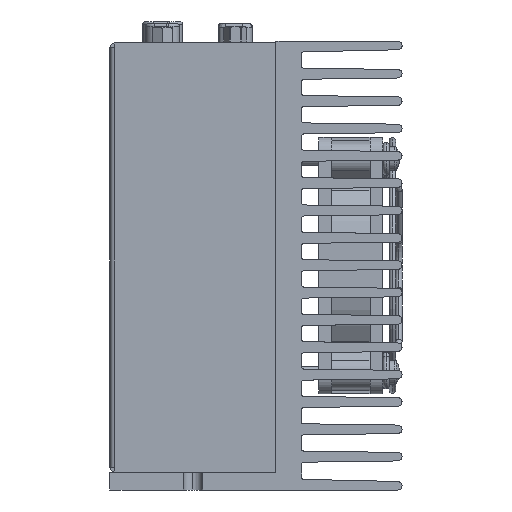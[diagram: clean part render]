
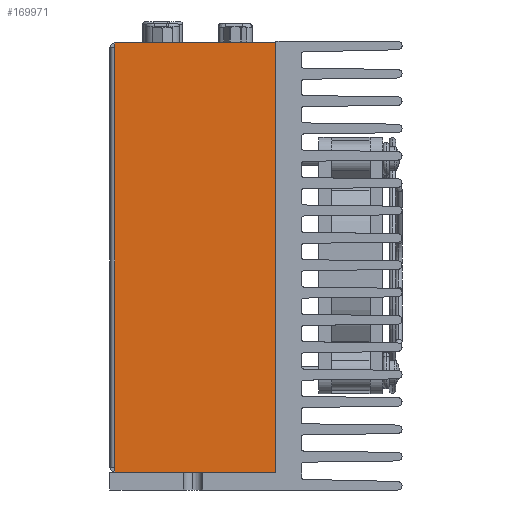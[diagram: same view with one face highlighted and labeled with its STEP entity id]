
A CAD part, left-side view. The second image highlights one B-rep face of the part: STEP entity #169971.
In plain terms, the highlighted planar face has unit normal (-1, 0, 0).
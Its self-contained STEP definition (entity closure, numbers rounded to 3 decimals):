
#8135 = LINE ( 'NONE', #13530, #123324 ) ;
#11818 = ORIENTED_EDGE ( 'NONE', *, *, #170365, .F. ) ;
#12488 = ORIENTED_EDGE ( 'NONE', *, *, #30053, .T. ) ;
#13530 = CARTESIAN_POINT ( 'NONE',  ( -132.35, 41.75, 4.2 ) ) ;
#14183 = EDGE_LOOP ( 'NONE', ( #33643, #18752, #12488, #91021, #152354, #11818 ) ) ;
#17228 = VERTEX_POINT ( 'NONE', #69547 ) ;
#18752 = ORIENTED_EDGE ( 'NONE', *, *, #99204, .T. ) ;
#18993 = VECTOR ( 'NONE', #145431, 1000. ) ;
#25196 = CARTESIAN_POINT ( 'NONE',  ( -132.35, 4., 104.6 ) ) ;
#26542 = CARTESIAN_POINT ( 'NONE',  ( -132.35, 4., 4.2 ) ) ;
#26770 = FACE_OUTER_BOUND ( 'NONE', #14183, .T. ) ;
#30053 = EDGE_CURVE ( 'NONE', #143443, #17228, #138889, .T. ) ;
#31336 = LINE ( 'NONE', #31872, #75993 ) ;
#31872 = CARTESIAN_POINT ( 'NONE',  ( -132.35, 4., 4.2 ) ) ;
#32694 = VERTEX_POINT ( 'NONE', #146691 ) ;
#33643 = ORIENTED_EDGE ( 'NONE', *, *, #98914, .F. ) ;
#36437 = CARTESIAN_POINT ( 'NONE',  ( -132.35, 41.75, 103.49 ) ) ;
#40396 = EDGE_CURVE ( 'NONE', #116385, #32694, #65666, .T. ) ;
#46595 = CARTESIAN_POINT ( 'NONE',  ( -132.35, 41.85, 4.2 ) ) ;
#61779 = DIRECTION ( 'NONE',  ( 0., 1., 0. ) ) ;
#65666 = LINE ( 'NONE', #111239, #70345 ) ;
#69547 = CARTESIAN_POINT ( 'NONE',  ( -132.35, 4., 104.6 ) ) ;
#70345 = VECTOR ( 'NONE', #113204, 1000. ) ;
#75993 = VECTOR ( 'NONE', #136983, 1000. ) ;
#80626 = VERTEX_POINT ( 'NONE', #119160 ) ;
#83801 = DIRECTION ( 'NONE',  ( 0., 1., 0. ) ) ;
#83911 = DIRECTION ( 'NONE',  ( 0., 0., 1. ) ) ;
#91021 = ORIENTED_EDGE ( 'NONE', *, *, #135553, .T. ) ;
#98914 = EDGE_CURVE ( 'NONE', #80626, #165483, #172644, .T. ) ;
#99204 = EDGE_CURVE ( 'NONE', #80626, #143443, #31336, .T. ) ;
#103585 = DIRECTION ( 'NONE',  ( 0., 0., 1. ) ) ;
#111239 = CARTESIAN_POINT ( 'NONE',  ( -132.35, 41.75, 104.6 ) ) ;
#113204 = DIRECTION ( 'NONE',  ( 0., 0., 1. ) ) ;
#116385 = VERTEX_POINT ( 'NONE', #36437 ) ;
#119160 = CARTESIAN_POINT ( 'NONE',  ( -132.35, 41.75, 4.2 ) ) ;
#121484 = PLANE ( 'NONE',  #128558 ) ;
#123131 = VECTOR ( 'NONE', #83911, 1000. ) ;
#123324 = VECTOR ( 'NONE', #103585, 1000. ) ;
#124424 = CARTESIAN_POINT ( 'NONE',  ( -132.35, 41.75, 5.31 ) ) ;
#128558 = AXIS2_PLACEMENT_3D ( 'NONE', #46595, #151757, #61779 ) ;
#129224 = CARTESIAN_POINT ( 'NONE',  ( -132.35, 41.75, 4.2 ) ) ;
#135553 = EDGE_CURVE ( 'NONE', #17228, #32694, #145923, .T. ) ;
#136983 = DIRECTION ( 'NONE',  ( 0., -1., 0. ) ) ;
#138889 = LINE ( 'NONE', #25196, #18993 ) ;
#143443 = VERTEX_POINT ( 'NONE', #26542 ) ;
#145431 = DIRECTION ( 'NONE',  ( 0., 0., 1. ) ) ;
#145923 = LINE ( 'NONE', #173877, #186001 ) ;
#146691 = CARTESIAN_POINT ( 'NONE',  ( -132.35, 41.75, 104.6 ) ) ;
#151757 = DIRECTION ( 'NONE',  ( 1., 0., 0. ) ) ;
#152354 = ORIENTED_EDGE ( 'NONE', *, *, #40396, .F. ) ;
#165483 = VERTEX_POINT ( 'NONE', #124424 ) ;
#169971 = ADVANCED_FACE ( 'NONE', ( #26770 ), #121484, .F. ) ;
#170365 = EDGE_CURVE ( 'NONE', #165483, #116385, #8135, .T. ) ;
#172644 = LINE ( 'NONE', #129224, #123131 ) ;
#173877 = CARTESIAN_POINT ( 'NONE',  ( -132.35, 41.85, 104.6 ) ) ;
#186001 = VECTOR ( 'NONE', #83801, 1000. ) ;
